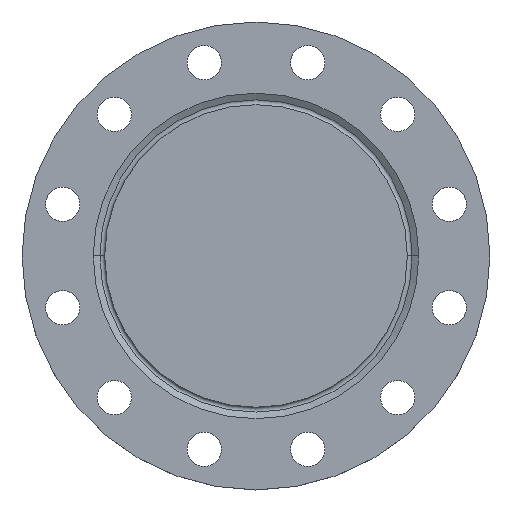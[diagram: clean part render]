
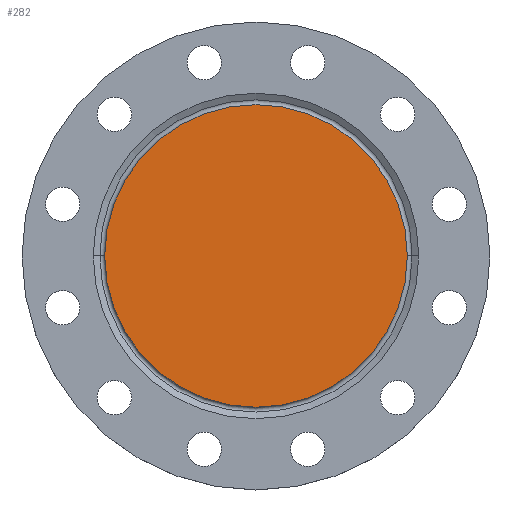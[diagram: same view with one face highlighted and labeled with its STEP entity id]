
A CAD part, top view. The second image highlights one B-rep face of the part: STEP entity #282.
In plain terms, the highlighted planar face has unit normal (0, 0, 1).
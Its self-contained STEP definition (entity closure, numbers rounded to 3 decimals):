
#282 = ADVANCED_FACE ( 'NONE', ( #922 ), #1367, .T. ) ;
#305 = DIRECTION ( 'NONE',  ( -1., 0., 0. ) ) ;
#359 = CARTESIAN_POINT ( 'NONE',  ( 0., 0., 0. ) ) ;
#407 = DIRECTION ( 'NONE',  ( -1., 0., 0. ) ) ;
#418 = CARTESIAN_POINT ( 'NONE',  ( -145.5, 0., 0. ) ) ;
#436 = EDGE_LOOP ( 'NONE', ( #562, #840 ) ) ;
#445 = AXIS2_PLACEMENT_3D ( 'NONE', #359, #818, #1255 ) ;
#446 = VERTEX_POINT ( 'NONE', #1425 ) ;
#562 = ORIENTED_EDGE ( 'NONE', *, *, #921, .F. ) ;
#568 = AXIS2_PLACEMENT_3D ( 'NONE', #974, #1413, #407 ) ;
#612 = CIRCLE ( 'NONE', #709, 145.5 ) ;
#709 = AXIS2_PLACEMENT_3D ( 'NONE', #881, #1318, #305 ) ;
#818 = DIRECTION ( 'NONE',  ( 0., 0., 1. ) ) ;
#840 = ORIENTED_EDGE ( 'NONE', *, *, #1298, .F. ) ;
#881 = CARTESIAN_POINT ( 'NONE',  ( 0., 0., 0. ) ) ;
#921 = EDGE_CURVE ( 'NONE', #1315, #446, #612, .T. ) ;
#922 = FACE_OUTER_BOUND ( 'NONE', #436, .T. ) ;
#974 = CARTESIAN_POINT ( 'NONE',  ( 0., 0., 0. ) ) ;
#1255 = DIRECTION ( 'NONE',  ( 1., 0., 0. ) ) ;
#1298 = EDGE_CURVE ( 'NONE', #446, #1315, #1385, .T. ) ;
#1315 = VERTEX_POINT ( 'NONE', #418 ) ;
#1318 = DIRECTION ( 'NONE',  ( 0., 0., -1. ) ) ;
#1367 = PLANE ( 'NONE',  #445 ) ;
#1385 = CIRCLE ( 'NONE', #568, 145.5 ) ;
#1413 = DIRECTION ( 'NONE',  ( 0., 0., -1. ) ) ;
#1425 = CARTESIAN_POINT ( 'NONE',  ( 145.5, 0., 0. ) ) ;
